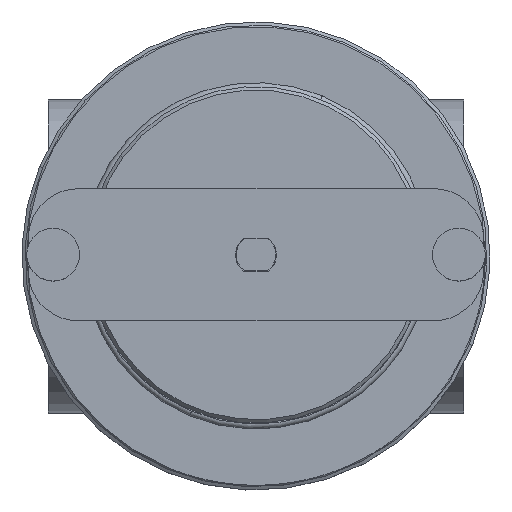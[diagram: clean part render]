
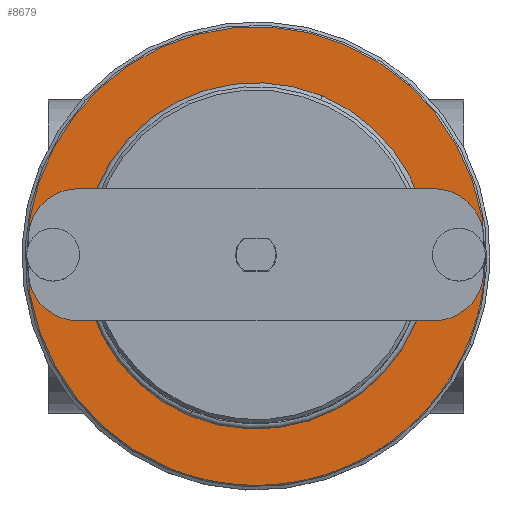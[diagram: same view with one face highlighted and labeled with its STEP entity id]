
A CAD part, top view. The second image highlights one B-rep face of the part: STEP entity #8679.
In plain terms, the highlighted planar face has unit normal (0, 0, 1).
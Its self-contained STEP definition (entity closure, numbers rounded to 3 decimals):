
#26 = CARTESIAN_POINT ( 'NONE',  ( -1.5, 0., 129.5 ) ) ;
#129 = AXIS2_PLACEMENT_3D ( 'NONE', #4386, #14765, #2996 ) ;
#208 = AXIS2_PLACEMENT_3D ( 'NONE', #12330, #4629, #12030 ) ;
#235 = DIRECTION ( 'NONE',  ( 0., 0., -1. ) ) ;
#879 = CIRCLE ( 'NONE', #14141, 8. ) ;
#1364 = DIRECTION ( 'NONE',  ( 0., 0., -1. ) ) ;
#1542 = CIRCLE ( 'NONE', #17958, 52.5 ) ;
#1977 = CARTESIAN_POINT ( 'NONE',  ( -1.5, -8., 129.5 ) ) ;
#2272 = CARTESIAN_POINT ( 'NONE',  ( -132.5, 0., 129.5 ) ) ;
#2367 = AXIS2_PLACEMENT_3D ( 'NONE', #15153, #18226, #7738 ) ;
#2448 = CARTESIAN_POINT ( 'NONE',  ( -63., 0., 129.5 ) ) ;
#2651 = DIRECTION ( 'NONE',  ( 0., 0., -1. ) ) ;
#2848 = CARTESIAN_POINT ( 'NONE',  ( -63., 0., 129.5 ) ) ;
#2955 = AXIS2_PLACEMENT_3D ( 'NONE', #13964, #6168, #18232 ) ;
#2996 = DIRECTION ( 'NONE',  ( 0., 1., 0. ) ) ;
#3072 = VERTEX_POINT ( 'NONE', #12559 ) ;
#3098 = EDGE_CURVE ( 'NONE', #12356, #12200, #1542, .T. ) ;
#3101 = CARTESIAN_POINT ( 'NONE',  ( -63., 0., 129.5 ) ) ;
#3639 = CIRCLE ( 'NONE', #7100, 52.5 ) ;
#3830 = EDGE_CURVE ( 'NONE', #12784, #3072, #15353, .T. ) ;
#4386 = CARTESIAN_POINT ( 'NONE',  ( -1.5, 0., 129.5 ) ) ;
#4486 = DIRECTION ( 'NONE',  ( 0., 0., -1. ) ) ;
#4629 = DIRECTION ( 'NONE',  ( 0., 0., -1. ) ) ;
#5180 = CIRCLE ( 'NONE', #129, 8. ) ;
#5229 = VERTEX_POINT ( 'NONE', #16195 ) ;
#5271 = AXIS2_PLACEMENT_3D ( 'NONE', #10068, #2651, #16493 ) ;
#5479 = CIRCLE ( 'NONE', #14958, 8. ) ;
#5818 = DIRECTION ( 'NONE',  ( 0.383, 0.924, 0. ) ) ;
#5844 = ORIENTED_EDGE ( 'NONE', *, *, #3098, .T. ) ;
#6168 = DIRECTION ( 'NONE',  ( 0., 0., -1. ) ) ;
#6272 = DIRECTION ( 'NONE',  ( 0.383, 0.924, 0. ) ) ;
#6383 = DIRECTION ( 'NONE',  ( 0., 0., -1. ) ) ;
#6747 = ORIENTED_EDGE ( 'NONE', *, *, #3830, .T. ) ;
#6792 = DIRECTION ( 'NONE',  ( 0., -1., 0. ) ) ;
#6796 = EDGE_CURVE ( 'NONE', #9643, #6845, #879, .T. ) ;
#6845 = VERTEX_POINT ( 'NONE', #15152 ) ;
#6934 = EDGE_CURVE ( 'NONE', #8392, #9643, #16992, .T. ) ;
#7006 = ORIENTED_EDGE ( 'NONE', *, *, #16159, .T. ) ;
#7089 = AXIS2_PLACEMENT_3D ( 'NONE', #2848, #1364, #5818 ) ;
#7100 = AXIS2_PLACEMENT_3D ( 'NONE', #13988, #6383, #15579 ) ;
#7154 = CIRCLE ( 'NONE', #5271, 69.5 ) ;
#7252 = FACE_BOUND ( 'NONE', #18952, .T. ) ;
#7557 = ORIENTED_EDGE ( 'NONE', *, *, #6796, .T. ) ;
#7738 = DIRECTION ( 'NONE',  ( 0.383, 0.924, 0. ) ) ;
#7931 = CARTESIAN_POINT ( 'NONE',  ( -1.5, 0., 129.5 ) ) ;
#8392 = VERTEX_POINT ( 'NONE', #1977 ) ;
#8522 = CARTESIAN_POINT ( 'NONE',  ( -89.596, -64.21, 129.5 ) ) ;
#8664 = CIRCLE ( 'NONE', #12760, 69.5 ) ;
#8679 = ADVANCED_FACE ( 'NONE', ( #7252, #13368 ), #10219, .F. ) ;
#8926 = CARTESIAN_POINT ( 'NONE',  ( -124.5, 0., 129.5 ) ) ;
#9184 = ORIENTED_EDGE ( 'NONE', *, *, #16793, .T. ) ;
#9252 = EDGE_CURVE ( 'NONE', #15117, #12784, #14006, .T. ) ;
#9643 = VERTEX_POINT ( 'NONE', #13021 ) ;
#9953 = ORIENTED_EDGE ( 'NONE', *, *, #11953, .F. ) ;
#10068 = CARTESIAN_POINT ( 'NONE',  ( -63., 0., 129.5 ) ) ;
#10216 = DIRECTION ( 'NONE',  ( 0., 1., 0. ) ) ;
#10219 = PLANE ( 'NONE',  #16866 ) ;
#10504 = DIRECTION ( 'NONE',  ( 0., 0., -1. ) ) ;
#10600 = DIRECTION ( 'NONE',  ( 0., 0., -1. ) ) ;
#10892 = CIRCLE ( 'NONE', #7089, 69.5 ) ;
#10895 = CIRCLE ( 'NONE', #2367, 69.5 ) ;
#11021 = EDGE_CURVE ( 'NONE', #6845, #14173, #8664, .T. ) ;
#11353 = ORIENTED_EDGE ( 'NONE', *, *, #16775, .T. ) ;
#11783 = CARTESIAN_POINT ( 'NONE',  ( -42.909, 48.504, 129.5 ) ) ;
#11953 = EDGE_CURVE ( 'NONE', #14173, #15117, #10895, .T. ) ;
#12030 = DIRECTION ( 'NONE',  ( 0., 1., 0. ) ) ;
#12200 = VERTEX_POINT ( 'NONE', #15530 ) ;
#12280 = DIRECTION ( 'NONE',  ( 0., 1., 0. ) ) ;
#12289 = CARTESIAN_POINT ( 'NONE',  ( -63., 0., 129.5 ) ) ;
#12330 = CARTESIAN_POINT ( 'NONE',  ( -124.5, 0., 129.5 ) ) ;
#12356 = VERTEX_POINT ( 'NONE', #11783 ) ;
#12455 = ORIENTED_EDGE ( 'NONE', *, *, #9252, .T. ) ;
#12559 = CARTESIAN_POINT ( 'NONE',  ( -124.5, -8., 129.5 ) ) ;
#12760 = AXIS2_PLACEMENT_3D ( 'NONE', #12289, #16850, #6272 ) ;
#12784 = VERTEX_POINT ( 'NONE', #17072 ) ;
#13021 = CARTESIAN_POINT ( 'NONE',  ( -1.5, 8., 129.5 ) ) ;
#13368 = FACE_OUTER_BOUND ( 'NONE', #14912, .T. ) ;
#13826 = ORIENTED_EDGE ( 'NONE', *, *, #6934, .T. ) ;
#13964 = CARTESIAN_POINT ( 'NONE',  ( -124.5, 0., 129.5 ) ) ;
#13988 = CARTESIAN_POINT ( 'NONE',  ( -63., 0., 129.5 ) ) ;
#14006 = CIRCLE ( 'NONE', #2955, 8. ) ;
#14141 = AXIS2_PLACEMENT_3D ( 'NONE', #7931, #10600, #15455 ) ;
#14173 = VERTEX_POINT ( 'NONE', #8522 ) ;
#14505 = ORIENTED_EDGE ( 'NONE', *, *, #18705, .F. ) ;
#14765 = DIRECTION ( 'NONE',  ( 0., 0., -1. ) ) ;
#14912 = EDGE_LOOP ( 'NONE', ( #16506, #11353, #13826, #7557, #14505, #18716, #12455, #6747, #9184, #9953 ) ) ;
#14958 = AXIS2_PLACEMENT_3D ( 'NONE', #8926, #10504, #10216 ) ;
#15117 = VERTEX_POINT ( 'NONE', #2272 ) ;
#15152 = CARTESIAN_POINT ( 'NONE',  ( 6.5, 0., 129.5 ) ) ;
#15153 = CARTESIAN_POINT ( 'NONE',  ( -63., 0., 129.5 ) ) ;
#15353 = CIRCLE ( 'NONE', #208, 8. ) ;
#15455 = DIRECTION ( 'NONE',  ( 0., 1., 0. ) ) ;
#15530 = CARTESIAN_POINT ( 'NONE',  ( -83.091, -48.504, 129.5 ) ) ;
#15579 = DIRECTION ( 'NONE',  ( -1., 0., 0. ) ) ;
#15637 = DIRECTION ( 'NONE',  ( -1., 0., 0. ) ) ;
#15723 = EDGE_CURVE ( 'NONE', #15117, #5229, #10892, .T. ) ;
#15993 = DIRECTION ( 'NONE',  ( 0., 0., -1. ) ) ;
#16159 = EDGE_CURVE ( 'NONE', #12200, #12356, #3639, .T. ) ;
#16195 = CARTESIAN_POINT ( 'NONE',  ( -36.404, 64.21, 129.5 ) ) ;
#16493 = DIRECTION ( 'NONE',  ( 0.383, 0.924, 0. ) ) ;
#16506 = ORIENTED_EDGE ( 'NONE', *, *, #11021, .F. ) ;
#16681 = AXIS2_PLACEMENT_3D ( 'NONE', #26, #235, #12280 ) ;
#16775 = EDGE_CURVE ( 'NONE', #6845, #8392, #5180, .T. ) ;
#16793 = EDGE_CURVE ( 'NONE', #3072, #15117, #5479, .T. ) ;
#16850 = DIRECTION ( 'NONE',  ( 0., 0., -1. ) ) ;
#16866 = AXIS2_PLACEMENT_3D ( 'NONE', #3101, #4486, #6792 ) ;
#16992 = CIRCLE ( 'NONE', #16681, 8. ) ;
#17072 = CARTESIAN_POINT ( 'NONE',  ( -124.5, 8., 129.5 ) ) ;
#17958 = AXIS2_PLACEMENT_3D ( 'NONE', #2448, #15993, #15637 ) ;
#18226 = DIRECTION ( 'NONE',  ( 0., 0., -1. ) ) ;
#18232 = DIRECTION ( 'NONE',  ( 0., 1., 0. ) ) ;
#18705 = EDGE_CURVE ( 'NONE', #5229, #6845, #7154, .T. ) ;
#18716 = ORIENTED_EDGE ( 'NONE', *, *, #15723, .F. ) ;
#18952 = EDGE_LOOP ( 'NONE', ( #7006, #5844 ) ) ;
